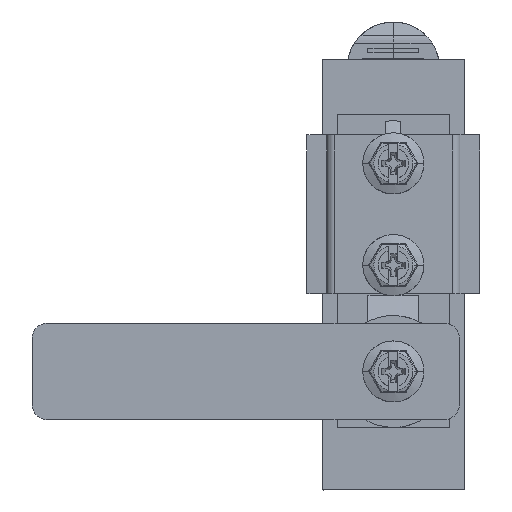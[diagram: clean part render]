
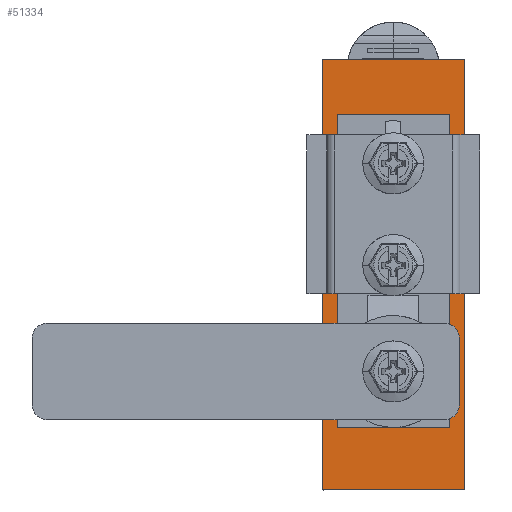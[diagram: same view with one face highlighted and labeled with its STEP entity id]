
A CAD part, left-side view. The second image highlights one B-rep face of the part: STEP entity #51334.
In plain terms, the highlighted planar face has unit normal (-1, 0, 0).
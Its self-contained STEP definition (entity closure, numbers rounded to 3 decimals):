
#77 = B_SPLINE_CURVE_WITH_KNOTS ( 'NONE', 3,
 ( #9063, #4125, #35990, #233 ),
 .UNSPECIFIED., .F., .F.,
 ( 4, 4 ),
 ( 0., 1. ),
 .UNSPECIFIED. ) ;
#233 = CARTESIAN_POINT ( 'NONE',  ( -4., 11., -45.2 ) ) ;
#1072 = CARTESIAN_POINT ( 'NONE',  ( -4., -3.133, 16.3 ) ) ;
#1112 = FACE_OUTER_BOUND ( 'NONE', #28475, .T. ) ;
#2438 = CARTESIAN_POINT ( 'NONE',  ( -4., -14., -1.033 ) ) ;
#3592 = CARTESIAN_POINT ( 'NONE',  ( -4., 14., 27.2 ) ) ;
#3901 = CARTESIAN_POINT ( 'NONE',  ( -4., -9.4, 16.3 ) ) ;
#4125 = CARTESIAN_POINT ( 'NONE',  ( -4., 11., -4.2 ) ) ;
#4670 = CARTESIAN_POINT ( 'NONE',  ( -4., 11., -45.2 ) ) ;
#5029 = EDGE_CURVE ( 'NONE', #32648, #24922, #43185, .T. ) ;
#5546 = VERTEX_POINT ( 'NONE', #14313 ) ;
#5827 = ORIENTED_EDGE ( 'NONE', *, *, #12650, .F. ) ;
#6269 = CARTESIAN_POINT ( 'NONE',  ( -4., -11., 16.3 ) ) ;
#7106 = CARTESIAN_POINT ( 'NONE',  ( -4., -4.667, -57.5 ) ) ;
#7719 = CARTESIAN_POINT ( 'NONE',  ( -4., 4.667, 27.2 ) ) ;
#8052 = B_SPLINE_CURVE_WITH_KNOTS ( 'NONE', 3,
 ( #17324, #2438, #41847, #30092 ),
 .UNSPECIFIED., .F., .F.,
 ( 4, 4 ),
 ( 0., 1. ),
 .UNSPECIFIED. ) ;
#8145 = VERTEX_POINT ( 'NONE', #45713 ) ;
#8174 = CARTESIAN_POINT ( 'NONE',  ( -4., 11., 16.3 ) ) ;
#8259 = B_SPLINE_CURVE_WITH_KNOTS ( 'NONE', 3,
 ( #33748, #9717, #37919, #50196 ),
 .UNSPECIFIED., .F., .F.,
 ( 4, 4 ),
 ( 0., 1. ),
 .UNSPECIFIED. ) ;
#9063 = CARTESIAN_POINT ( 'NONE',  ( -4., 11., 16.3 ) ) ;
#9717 = CARTESIAN_POINT ( 'NONE',  ( -4., 10.467, 16.3 ) ) ;
#10779 = CARTESIAN_POINT ( 'NONE',  ( -4., -11., 16.3 ) ) ;
#11028 = CARTESIAN_POINT ( 'NONE',  ( -4., -14., -57.5 ) ) ;
#11627 = ORIENTED_EDGE ( 'NONE', *, *, #5029, .T. ) ;
#11992 = CARTESIAN_POINT ( 'NONE',  ( -4., -11., -45.2 ) ) ;
#12650 = EDGE_CURVE ( 'NONE', #32648, #42917, #35636, .T. ) ;
#13267 = CARTESIAN_POINT ( 'NONE',  ( -4., 3.667, -45.2 ) ) ;
#13674 = EDGE_CURVE ( 'NONE', #35062, #22008, #77, .T. ) ;
#13721 = VERTEX_POINT ( 'NONE', #41931 ) ;
#13833 = CARTESIAN_POINT ( 'NONE',  ( -4., 9.4, 16.3 ) ) ;
#14313 = CARTESIAN_POINT ( 'NONE',  ( -4., -11., -45.2 ) ) ;
#14792 = CARTESIAN_POINT ( 'NONE',  ( -4., 11., -45.2 ) ) ;
#15367 = ORIENTED_EDGE ( 'NONE', *, *, #36073, .F. ) ;
#16678 = CARTESIAN_POINT ( 'NONE',  ( -4., -11., -45.2 ) ) ;
#16974 = CARTESIAN_POINT ( 'NONE',  ( -4., 3.133, 16.3 ) ) ;
#17324 = CARTESIAN_POINT ( 'NONE',  ( -4., -14., 27.2 ) ) ;
#17710 = B_SPLINE_CURVE_WITH_KNOTS ( 'NONE', 3,
 ( #17888, #33051, #37745, #49481 ),
 .UNSPECIFIED., .F., .F.,
 ( 4, 4 ),
 ( 0., 1. ),
 .UNSPECIFIED. ) ;
#17888 = CARTESIAN_POINT ( 'NONE',  ( -4., 14., -57.5 ) ) ;
#20920 = CARTESIAN_POINT ( 'NONE',  ( -4., -9.4, 16.3 ) ) ;
#21417 = ORIENTED_EDGE ( 'NONE', *, *, #28780, .F. ) ;
#21422 = ORIENTED_EDGE ( 'NONE', *, *, #13674, .F. ) ;
#22008 = VERTEX_POINT ( 'NONE', #14792 ) ;
#22194 = CARTESIAN_POINT ( 'NONE',  ( -4., -9.933, 16.3 ) ) ;
#23212 = ORIENTED_EDGE ( 'NONE', *, *, #31456, .T. ) ;
#23278 = CARTESIAN_POINT ( 'NONE',  ( -4., 14., -57.5 ) ) ;
#23980 = CARTESIAN_POINT ( 'NONE',  ( -4., -11., 16.3 ) ) ;
#24591 = DIRECTION ( 'NONE',  ( 0., 1., 0. ) ) ;
#24922 = VERTEX_POINT ( 'NONE', #10779 ) ;
#25191 = B_SPLINE_CURVE_WITH_KNOTS ( 'NONE', 3,
 ( #4670, #13267, #25274, #16678 ),
 .UNSPECIFIED., .F., .F.,
 ( 4, 4 ),
 ( 0., 1. ),
 .UNSPECIFIED. ) ;
#25274 = CARTESIAN_POINT ( 'NONE',  ( -4., -3.667, -45.2 ) ) ;
#26326 = VERTEX_POINT ( 'NONE', #3592 ) ;
#26721 = B_SPLINE_CURVE_WITH_KNOTS ( 'NONE', 3,
 ( #11992, #43570, #31820, #23980 ),
 .UNSPECIFIED., .F., .F.,
 ( 4, 4 ),
 ( 0., 1. ),
 .UNSPECIFIED. ) ;
#26916 = ORIENTED_EDGE ( 'NONE', *, *, #41898, .F. ) ;
#27274 = CARTESIAN_POINT ( 'NONE',  ( -4., -4.667, 27.2 ) ) ;
#27703 = CARTESIAN_POINT ( 'NONE',  ( -4., 4.667, -57.5 ) ) ;
#28475 = EDGE_LOOP ( 'NONE', ( #46732, #40449, #29629, #26916 ) ) ;
#28780 = EDGE_CURVE ( 'NONE', #5546, #24922, #26721, .T. ) ;
#29031 = DIRECTION ( 'NONE',  ( 1., 0., 0. ) ) ;
#29629 = ORIENTED_EDGE ( 'NONE', *, *, #39335, .T. ) ;
#29647 = CARTESIAN_POINT ( 'NONE',  ( -4., -14., -57.5 ) ) ;
#30014 = CARTESIAN_POINT ( 'NONE',  ( -4., -10.467, 16.3 ) ) ;
#30092 = CARTESIAN_POINT ( 'NONE',  ( -4., -14., -57.5 ) ) ;
#31456 = EDGE_CURVE ( 'NONE', #35062, #42917, #8259, .T. ) ;
#31666 = EDGE_CURVE ( 'NONE', #44465, #13721, #41152, .T. ) ;
#31820 = CARTESIAN_POINT ( 'NONE',  ( -4., -11., -4.2 ) ) ;
#31927 = FACE_BOUND ( 'NONE', #48459, .T. ) ;
#32648 = VERTEX_POINT ( 'NONE', #3901 ) ;
#32911 = CARTESIAN_POINT ( 'NONE',  ( -4., 9.4, 16.3 ) ) ;
#32946 = CARTESIAN_POINT ( 'NONE',  ( -4., 0., 0. ) ) ;
#33051 = CARTESIAN_POINT ( 'NONE',  ( -4., 14., -29.267 ) ) ;
#33748 = CARTESIAN_POINT ( 'NONE',  ( -4., 11., 16.3 ) ) ;
#35062 = VERTEX_POINT ( 'NONE', #8174 ) ;
#35636 = B_SPLINE_CURVE_WITH_KNOTS ( 'NONE', 3,
 ( #20920, #1072, #16974, #32911 ),
 .UNSPECIFIED., .F., .F.,
 ( 4, 4 ),
 ( -1., 0. ),
 .UNSPECIFIED. ) ;
#35990 = CARTESIAN_POINT ( 'NONE',  ( -4., 11., -24.7 ) ) ;
#36073 = EDGE_CURVE ( 'NONE', #22008, #5546, #25191, .T. ) ;
#37745 = CARTESIAN_POINT ( 'NONE',  ( -4., 14., -1.033 ) ) ;
#37919 = CARTESIAN_POINT ( 'NONE',  ( -4., 9.933, 16.3 ) ) ;
#38266 = CARTESIAN_POINT ( 'NONE',  ( -4., 14., 27.2 ) ) ;
#39335 = EDGE_CURVE ( 'NONE', #8145, #26326, #40493, .T. ) ;
#40449 = ORIENTED_EDGE ( 'NONE', *, *, #51070, .F. ) ;
#40493 = B_SPLINE_CURVE_WITH_KNOTS ( 'NONE', 3,
 ( #50532, #27274, #7719, #38266 ),
 .UNSPECIFIED., .F., .F.,
 ( 4, 4 ),
 ( 0., 1. ),
 .UNSPECIFIED. ) ;
#41152 = B_SPLINE_CURVE_WITH_KNOTS ( 'NONE', 3,
 ( #11028, #7106, #27703, #23278 ),
 .UNSPECIFIED., .F., .F.,
 ( 4, 4 ),
 ( 0., 1. ),
 .UNSPECIFIED. ) ;
#41847 = CARTESIAN_POINT ( 'NONE',  ( -4., -14., -29.267 ) ) ;
#41898 = EDGE_CURVE ( 'NONE', #13721, #26326, #17710, .T. ) ;
#41931 = CARTESIAN_POINT ( 'NONE',  ( -4., 14., -57.5 ) ) ;
#42917 = VERTEX_POINT ( 'NONE', #13833 ) ;
#43185 = B_SPLINE_CURVE_WITH_KNOTS ( 'NONE', 3,
 ( #49877, #22194, #30014, #6269 ),
 .UNSPECIFIED., .F., .F.,
 ( 4, 4 ),
 ( 0., 1. ),
 .UNSPECIFIED. ) ;
#43570 = CARTESIAN_POINT ( 'NONE',  ( -4., -11., -24.7 ) ) ;
#44444 = PLANE ( 'NONE',  #46085 ) ;
#44465 = VERTEX_POINT ( 'NONE', #29647 ) ;
#45713 = CARTESIAN_POINT ( 'NONE',  ( -4., -14., 27.2 ) ) ;
#46085 = AXIS2_PLACEMENT_3D ( 'NONE', #32946, #29031, #24591 ) ;
#46732 = ORIENTED_EDGE ( 'NONE', *, *, #31666, .F. ) ;
#48459 = EDGE_LOOP ( 'NONE', ( #21422, #23212, #5827, #11627, #21417, #15367 ) ) ;
#49481 = CARTESIAN_POINT ( 'NONE',  ( -4., 14., 27.2 ) ) ;
#49877 = CARTESIAN_POINT ( 'NONE',  ( -4., -9.4, 16.3 ) ) ;
#50196 = CARTESIAN_POINT ( 'NONE',  ( -4., 9.4, 16.3 ) ) ;
#50532 = CARTESIAN_POINT ( 'NONE',  ( -4., -14., 27.2 ) ) ;
#51070 = EDGE_CURVE ( 'NONE', #8145, #44465, #8052, .T. ) ;
#51334 = ADVANCED_FACE ( 'NONE', ( #1112, #31927 ), #44444, .F. ) ;
